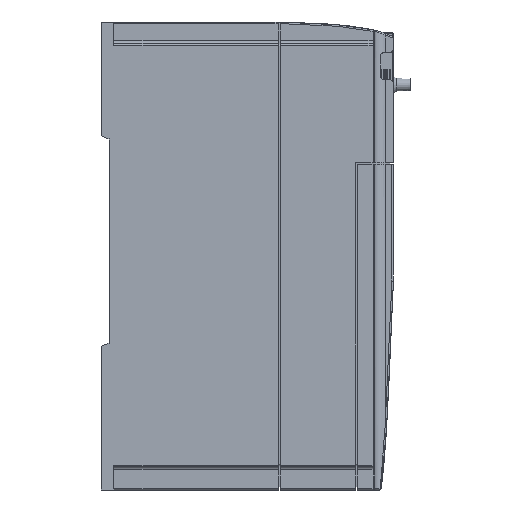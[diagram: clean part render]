
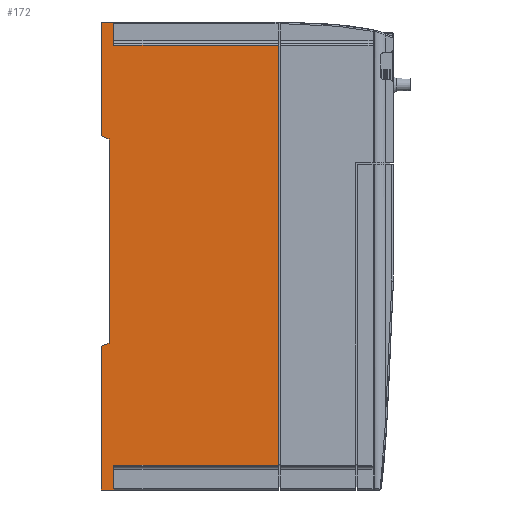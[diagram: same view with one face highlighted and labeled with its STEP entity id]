
A CAD part, front view. The second image highlights one B-rep face of the part: STEP entity #172.
In plain terms, the highlighted planar face has unit normal (0, -1, 0) as drawn and (1, 0, 0) by its records, which use the part's own axes.
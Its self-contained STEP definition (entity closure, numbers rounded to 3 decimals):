
#172=ADVANCED_FACE('',(#4239),#4241,.T.);
#4239=FACE_BOUND('',#4240,.T.);
#4240=EDGE_LOOP('',(#18112,#18113,#18114,#18115,#18116,#18117,#18118,#18119,#18120,
#18121,#18122,#18123));
#4241=PLANE('',#4242);
#4242=AXIS2_PLACEMENT_3D('',#4243,#4244,#4245);
#4243=CARTESIAN_POINT('',(115.,0.,155.1));
#4244=DIRECTION('',(1.,0.,0.));
#4245=DIRECTION('',(0.,0.,-1.));
#18112=ORIENTED_EDGE('',*,*,#24096,.T.);
#18113=ORIENTED_EDGE('',*,*,#24097,.T.);
#18114=ORIENTED_EDGE('',*,*,#24098,.F.);
#18115=ORIENTED_EDGE('',*,*,#24067,.T.);
#18116=ORIENTED_EDGE('',*,*,#24099,.T.);
#18117=ORIENTED_EDGE('',*,*,#24100,.T.);
#18118=ORIENTED_EDGE('',*,*,#24101,.T.);
#18119=ORIENTED_EDGE('',*,*,#24077,.T.);
#18120=ORIENTED_EDGE('',*,*,#24102,.T.);
#18121=ORIENTED_EDGE('',*,*,#24103,.T.);
#18122=ORIENTED_EDGE('',*,*,#24104,.T.);
#18123=ORIENTED_EDGE('',*,*,#24105,.T.);
#24067=EDGE_CURVE('',#27070,#27068,#27071,.T.);
#24077=EDGE_CURVE('',#27079,#27086,#27088,.T.);
#24096=EDGE_CURVE('',#27123,#27124,#27125,.F.);
#24097=EDGE_CURVE('',#27124,#27126,#27127,.T.);
#24098=EDGE_CURVE('',#27070,#27126,#27128,.T.);
#24099=EDGE_CURVE('',#27068,#27129,#27130,.F.);
#24100=EDGE_CURVE('',#27129,#27131,#27132,.F.);
#24101=EDGE_CURVE('',#27131,#27079,#27133,.F.);
#24102=EDGE_CURVE('',#27086,#27134,#27135,.T.);
#24103=EDGE_CURVE('',#27134,#27136,#27137,.T.);
#24104=EDGE_CURVE('',#27136,#27138,#27139,.F.);
#24105=EDGE_CURVE('',#27138,#27123,#27140,.T.);
#27068=VERTEX_POINT('',#32067);
#27070=VERTEX_POINT('',#32071);
#27071=LINE('',#32072,#32073);
#27079=VERTEX_POINT('',#32092);
#27086=VERTEX_POINT('',#32107);
#27088=LINE('',#32111,#32112);
#27123=VERTEX_POINT('',#32188);
#27124=VERTEX_POINT('',#32189);
#27125=LINE('',#32190,#32191);
#27126=VERTEX_POINT('',#32193);
#27127=LINE('',#32194,#32195);
#27128=LINE('',#32197,#32198);
#27129=VERTEX_POINT('',#32200);
#27130=LINE('',#32201,#32202);
#27131=VERTEX_POINT('',#32204);
#27132=LINE('',#32205,#32206);
#27133=LINE('',#32208,#32209);
#27134=VERTEX_POINT('',#32211);
#27135=LINE('',#32212,#32213);
#27136=VERTEX_POINT('',#32215);
#27137=LINE('',#32216,#32217);
#27138=VERTEX_POINT('',#32219);
#27139=LINE('',#32220,#32221);
#27140=LINE('',#32223,#32224);
#32067=CARTESIAN_POINT('',(115.,0.,79.6));
#32071=CARTESIAN_POINT('',(115.,0.,155.1));
#32072=CARTESIAN_POINT('',(115.,0.,155.1));
#32073=VECTOR('',#32074,1.);
#32074=DIRECTION('',(0.,0.,-1.));
#32092=CARTESIAN_POINT('',(115.,0.,-59.8));
#32107=CARTESIAN_POINT('',(115.,0.,-155.1));
#32111=CARTESIAN_POINT('',(115.,0.,-59.8));
#32112=VECTOR('',#32113,1.);
#32113=DIRECTION('',(0.,0.,-1.));
#32188=CARTESIAN_POINT('',(115.,117.5,139.8));
#32189=CARTESIAN_POINT('',(115.,8.2,139.8));
#32190=CARTESIAN_POINT('',(115.,8.2,139.8));
#32191=VECTOR('',#32192,1.);
#32192=DIRECTION('',(0.,1.,0.));
#32193=CARTESIAN_POINT('',(115.,8.2,155.1));
#32194=CARTESIAN_POINT('',(115.,8.2,139.8));
#32195=VECTOR('',#32196,1.);
#32196=DIRECTION('',(0.,0.,1.));
#32197=CARTESIAN_POINT('',(115.,0.,155.1));
#32198=VECTOR('',#32199,1.);
#32199=DIRECTION('',(0.,1.,0.));
#32200=CARTESIAN_POINT('',(115.,5.,77.55));
#32201=CARTESIAN_POINT('',(115.,5.,77.55));
#32202=VECTOR('',#32203,1.);
#32203=DIRECTION('',(0.,-0.925,0.379));
#32204=CARTESIAN_POINT('',(115.,5.,-57.75));
#32205=CARTESIAN_POINT('',(115.,5.,-57.75));
#32206=VECTOR('',#32207,1.);
#32207=DIRECTION('',(0.,0.,1.));
#32208=CARTESIAN_POINT('',(115.,0.,-59.8));
#32209=VECTOR('',#32210,1.);
#32210=DIRECTION('',(0.,0.925,0.379));
#32211=CARTESIAN_POINT('',(115.,8.2,-155.1));
#32212=CARTESIAN_POINT('',(115.,0.,-155.1));
#32213=VECTOR('',#32214,1.);
#32214=DIRECTION('',(0.,1.,0.));
#32215=CARTESIAN_POINT('',(115.,8.2,-138.7));
#32216=CARTESIAN_POINT('',(115.,8.2,-155.1));
#32217=VECTOR('',#32218,1.);
#32218=DIRECTION('',(0.,0.,1.));
#32219=CARTESIAN_POINT('',(115.,117.5,-138.7));
#32220=CARTESIAN_POINT('',(115.,117.5,-138.7));
#32221=VECTOR('',#32222,1.);
#32222=DIRECTION('',(0.,-1.,0.));
#32223=CARTESIAN_POINT('',(115.,117.5,-138.7));
#32224=VECTOR('',#32225,1.);
#32225=DIRECTION('',(0.,0.,1.));
